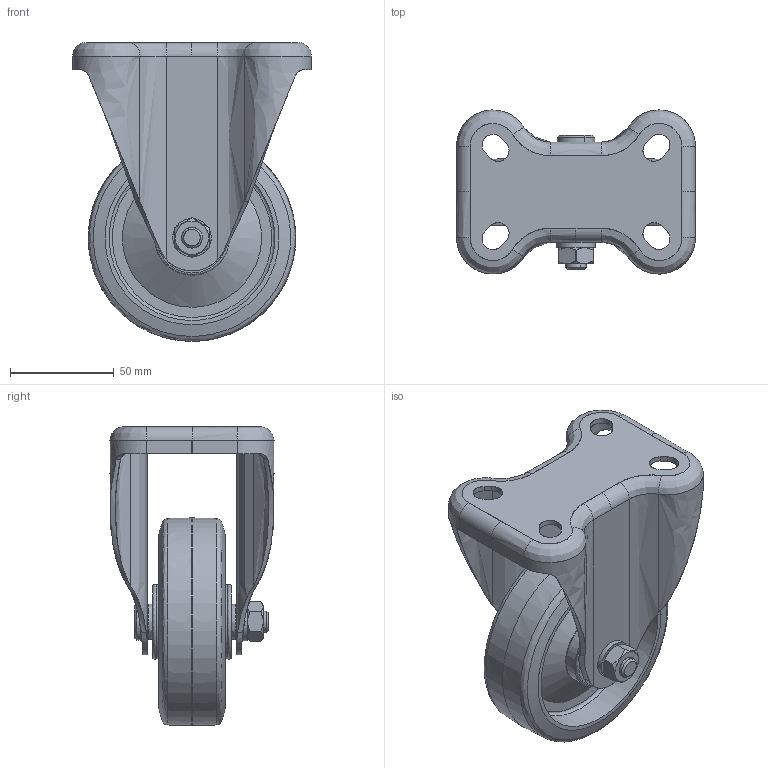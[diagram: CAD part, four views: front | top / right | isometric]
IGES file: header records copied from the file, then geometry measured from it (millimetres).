
Start section: JAMA-IS VERSION  1.0
Global section: file name: C:\CAM-TOOL data\ToolsFile\INOAC車輪\1月\P-100WK\P-100WK-ALL.igs; native system: CAM-TOOL; preprocessor: C3out Version 11.1.1.50212 (2015/02/12); author: NONE; organization: NONE; date: 250128.145640; units: millimetre
Bounding box: 115 x 78.99 x 144 mm (x, y, z)
Surface area: 128149.3 mm2 (no closed solid volume)
Topology: 0 solids, 0 shells, 443 faces, 7587 edges, 7889 vertices
Faces by surface type: bspline 443
